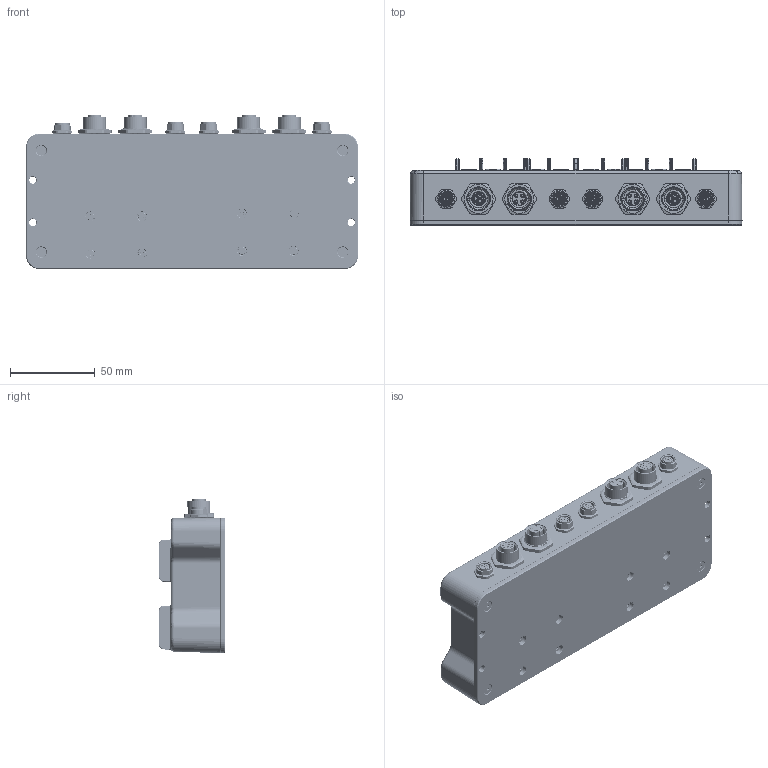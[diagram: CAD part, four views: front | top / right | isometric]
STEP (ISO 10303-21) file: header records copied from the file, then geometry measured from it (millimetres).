
FILE_DESCRIPTION (( 'STEP AP214' ), '1' );
FILE_NAME ('K2-MRO-E.STEP', '2024-08-07T15:43:39', ( '' ), ( '' ), 'SwSTEP 2.0', 'SolidWorks 2024', '' );
FILE_SCHEMA (( 'AUTOMOTIVE_DESIGN' ));
Length unit declared in the file: millimetre
Products named in the file (1): K2-MRO-E
Bounding box: 196 x 39.25 x 91.05 mm (x, y, z)
Volume: 137973.3 mm3; surface area: 126192.1 mm2
Topology: 54 solids, 54 shells, 5386 faces, 13825 edges, 8824 vertices
Faces by surface type: plane 2486, cylinder 1369, bspline 878, cone 615, sphere 22, torus 16
Entity records: 260825 total; most frequent: CARTESIAN_POINT 97549, ORIENTED_EDGE 27458, DIRECTION 22733, EDGE_CURVE 13729, VERTEX_POINT 8824, AXIS2_PLACEMENT_3D 7632, LINE 7469, VECTOR 7469
